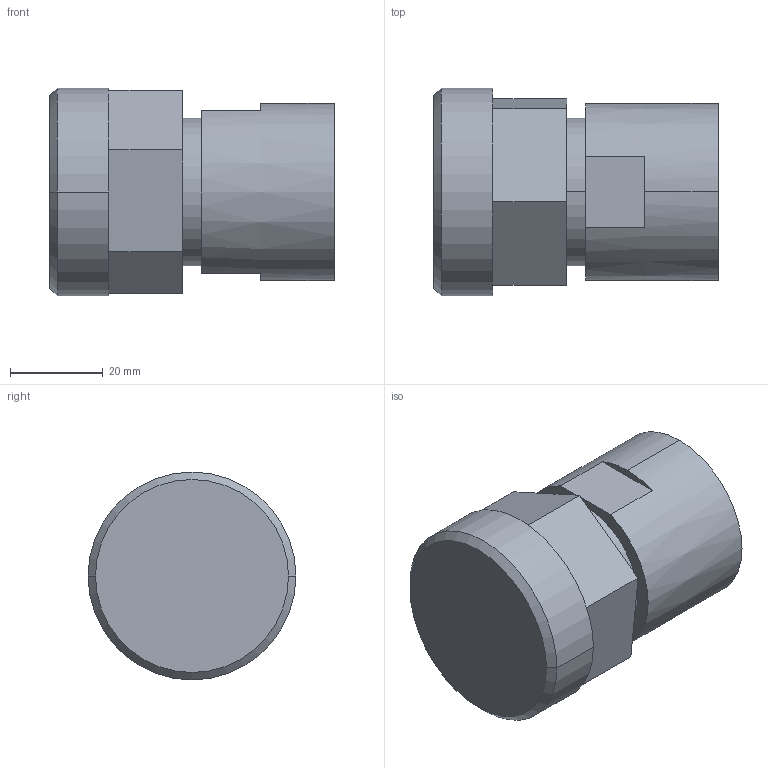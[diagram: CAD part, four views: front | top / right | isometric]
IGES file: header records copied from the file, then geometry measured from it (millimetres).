
Start section: SolidWorks IGES file using analytic representation for surfaces
Global section: file name: S:\Product Visuals\REVISED-60L-TOP-MOUNT-FITTINGS\IGS\fnpt\08-fnpt-with-top-mount-adapter.IGS; native system: SolidWorks 2012; preprocessor: SolidWorks 2012; author: rachel.dressel; date: 121127.114726; units: inch
Bounding box: 61.21 x 44.7 x 44.7 mm (x, y, z)
Volume: 70310.6 mm3; surface area: 12465.4 mm2
Topology: 1 solids, 1 shells, 26 faces, 58 edges, 38 vertices
Faces by surface type: plane 16, revolution 10
